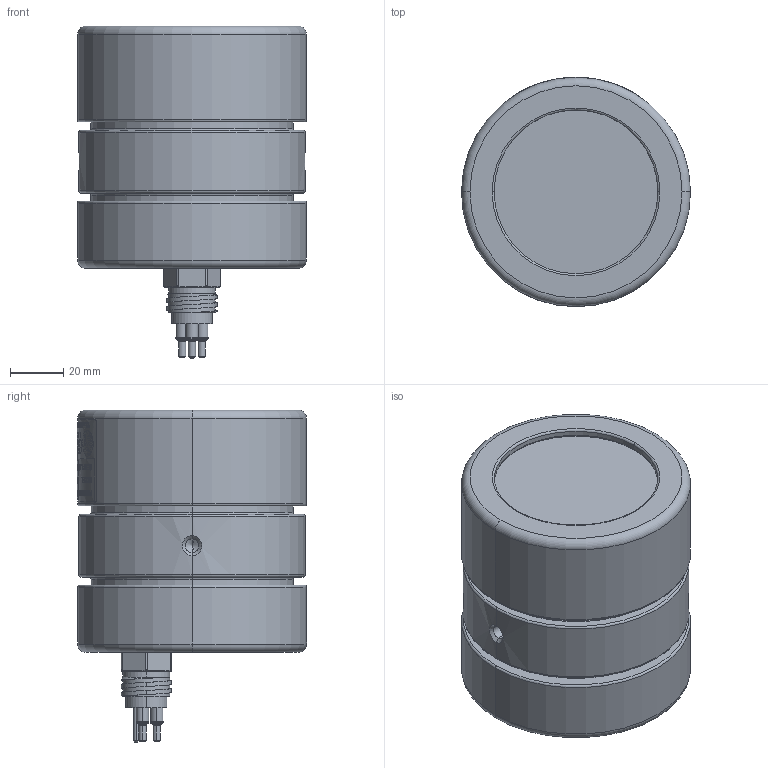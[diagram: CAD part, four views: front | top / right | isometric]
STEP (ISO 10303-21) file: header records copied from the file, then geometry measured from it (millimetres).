
FILE_DESCRIPTION (( 'STEP AP214' ), '1' );
FILE_NAME ('UWL-600_Website.STEP', '2023-08-04T20:08:36', ( '' ), ( '' ), 'SwSTEP 2.0', 'SolidWorks 2020', '' );
FILE_SCHEMA (( 'AUTOMOTIVE_DESIGN' ));
Length unit declared in the file: inch
Products named in the file (1): UWL-600_Website
Bounding box: 86.36 x 86.41 x 125.22 mm (x, y, z)
Volume: 425301.3 mm3; surface area: 77147.4 mm2
Topology: 3 solids, 24 shells, 729 faces, 2565 edges, 2012 vertices
Faces by surface type: cylinder 348, cone 134, plane 126, torus 80, bspline 41
Entity records: 51644 total; most frequent: CARTESIAN_POINT 20244, ORIENTED_EDGE 5098, DIRECTION 4029, EDGE_CURVE 2549, VERTEX_POINT 2012, AXIS2_PLACEMENT_3D 1632, CIRCLE 943, EDGE_LOOP 913
